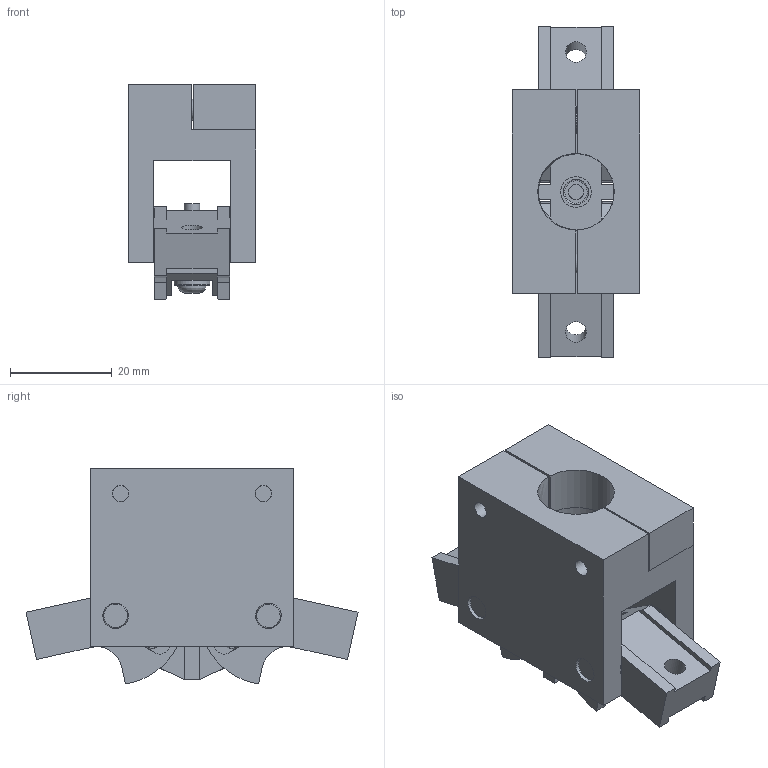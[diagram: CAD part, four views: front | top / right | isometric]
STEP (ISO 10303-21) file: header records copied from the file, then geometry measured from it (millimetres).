
FILE_DESCRIPTION((''),'2;1');
FILE_NAME('C:\Test\stp\3000014-2.stp','2006-04-11T13:00:01',('is'),(''),'Autodesk Inventor 10','Autodesk Inventor 10','');
FILE_SCHEMA(('AUTOMOTIVE_DESIGN { 1 0 10303 214 1 1 1 1 }'));
Length unit declared in the file: millimetre
Products named in the file (1): 3000014-2
Bounding box: 25 x 65.14 x 42.36 mm (x, y, z)
Volume: 27866.5 mm3; surface area: 14044.7 mm2
Topology: 1 solids, 4 shells, 247 faces, 660 edges, 416 vertices
Faces by surface type: plane 165, cylinder 39, cone 21, bspline 20, torus 2
Full cylindrical faces by diameter (mm): 3 x3, 4 x5, 6 x1, 7 x3, 10 x4
Entity records: 7658 total; most frequent: CARTESIAN_POINT 1669, DIRECTION 1229, ORIENTED_EDGE 1202, EDGE_CURVE 601, AXIS2_PLACEMENT_3D 420, VERTEX_POINT 397, VECTOR 389, LINE 389
